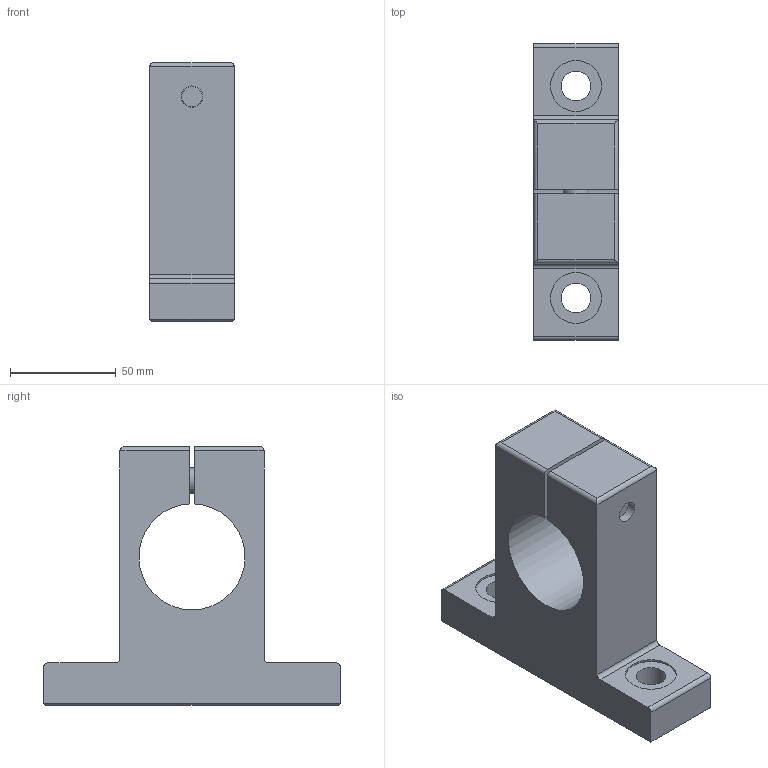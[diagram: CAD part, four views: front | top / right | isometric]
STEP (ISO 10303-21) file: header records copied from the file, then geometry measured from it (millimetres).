
FILE_DESCRIPTION((''),'2;1');
FILE_NAME('D:\製品 (図面)\カタログ用3D\シャフトブロック関連\STEP形式\SB\SB50.stp','2010-06-01T16:20:15',('Tsuchiya'),(''),'Autodesk Inventor 10','Autodesk Inventor 10','');
FILE_SCHEMA(('AUTOMOTIVE_DESIGN { 1 0 10303 214 1 1 1 1 }'));
Length unit declared in the file: millimetre
Products named in the file (1): SB50
Bounding box: 40 x 140 x 122 mm (x, y, z)
Volume: 298779.4 mm3; surface area: 48674.3 mm2
Topology: 1 solids, 1 shells, 52 faces, 123 edges, 79 vertices
Faces by surface type: plane 28, cylinder 17, bspline 4, cone 2, torus 1
Full cylindrical faces by diameter (mm): 12 x1, 14 x2, 18 x1, 24 x2
Entity records: 1474 total; most frequent: CARTESIAN_POINT 303, DIRECTION 238, ORIENTED_EDGE 216, EDGE_CURVE 108, AXIS2_PLACEMENT_3D 87, VERTEX_POINT 76, EDGE_LOOP 76, VECTOR 64
